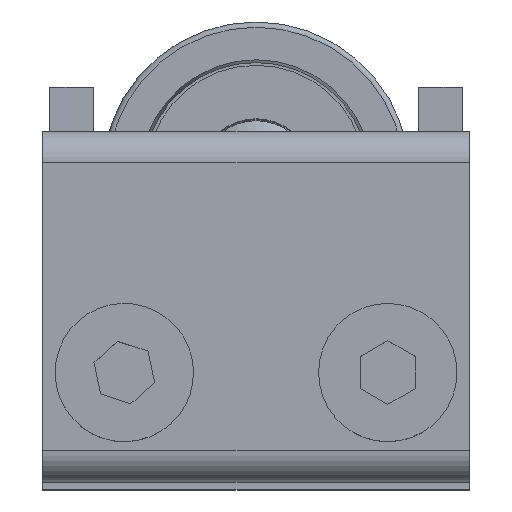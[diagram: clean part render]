
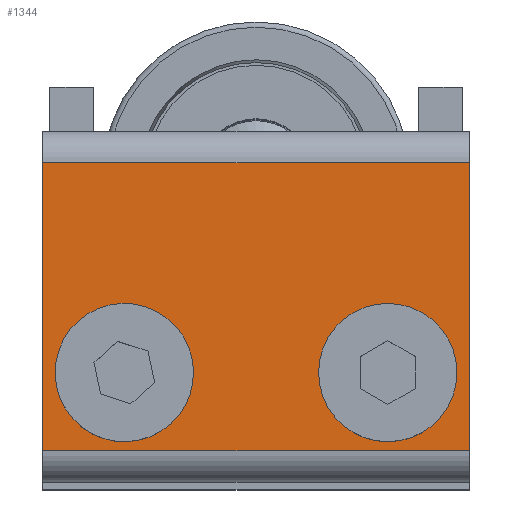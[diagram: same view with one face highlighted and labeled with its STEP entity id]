
A CAD part, top view. The second image highlights one B-rep face of the part: STEP entity #1344.
In plain terms, the highlighted planar face has unit normal (0, 0, 1) as drawn and (0, 0, -1) by its records, which use the part's own axes.
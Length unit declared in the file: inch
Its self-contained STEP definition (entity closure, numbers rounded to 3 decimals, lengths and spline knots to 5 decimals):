
#1043=DIRECTION('',(0.,-1.,0.));
#1044=VECTOR('',#1043,0.82);
#1045=CARTESIAN_POINT('',(-0.6075,0.41,-0.18));
#1046=LINE('',#1045,#1044);
#1069=DIRECTION('',(0.,-1.,0.));
#1070=VECTOR('',#1069,0.82);
#1071=CARTESIAN_POINT('',(0.6075,0.41,-0.18));
#1072=LINE('',#1071,#1070);
#1073=CARTESIAN_POINT('',(0.375,-0.188,-0.18));
#1074=DIRECTION('',(0.,0.,1.));
#1075=DIRECTION('',(1.,0.,0.));
#1076=AXIS2_PLACEMENT_3D('',#1073,#1074,#1075);
#1078=CARTESIAN_POINT('',(0.375,-0.188,-0.18));
#1079=DIRECTION('',(0.,0.,1.));
#1080=DIRECTION('',(-1.,0.,0.));
#1081=AXIS2_PLACEMENT_3D('',#1078,#1079,#1080);
#1083=CARTESIAN_POINT('',(-0.375,-0.188,-0.18));
#1084=DIRECTION('',(0.,0.,1.));
#1085=DIRECTION('',(1.,0.,0.));
#1086=AXIS2_PLACEMENT_3D('',#1083,#1084,#1085);
#1088=CARTESIAN_POINT('',(-0.375,-0.188,-0.18));
#1089=DIRECTION('',(0.,0.,1.));
#1090=DIRECTION('',(-1.,0.,0.));
#1091=AXIS2_PLACEMENT_3D('',#1088,#1089,#1090);
#1191=DIRECTION('',(-1.,0.,0.));
#1192=VECTOR('',#1191,1.215);
#1193=CARTESIAN_POINT('',(0.6075,0.41,-0.18));
#1194=LINE('',#1193,#1192);
#1211=DIRECTION('',(1.,0.,0.));
#1212=VECTOR('',#1211,1.215);
#1213=CARTESIAN_POINT('',(-0.6075,-0.41,-0.18));
#1214=LINE('',#1213,#1212);
#1219=CARTESIAN_POINT('',(0.6075,0.41,-0.18));
#1221=VERTEX_POINT('',#1219);
#1234=CARTESIAN_POINT('',(0.25,-0.188,-0.18));
#1236=VERTEX_POINT('',#1234);
#1239=CARTESIAN_POINT('',(-0.6075,0.41,-0.18));
#1240=CARTESIAN_POINT('',(-0.6075,-0.41,-0.18));
#1241=VERTEX_POINT('',#1239);
#1242=VERTEX_POINT('',#1240);
#1257=CARTESIAN_POINT('',(0.6075,-0.41,-0.18));
#1258=VERTEX_POINT('',#1257);
#1261=CARTESIAN_POINT('',(-0.5,-0.188,-0.18));
#1262=VERTEX_POINT('',#1261);
#1265=CARTESIAN_POINT('',(-0.25,-0.188,-0.18));
#1266=VERTEX_POINT('',#1265);
#1271=CARTESIAN_POINT('',(0.5,-0.188,-0.18));
#1272=VERTEX_POINT('',#1271);
#1318=CARTESIAN_POINT('',(0.6075,0.5,-0.18));
#1319=DIRECTION('',(0.,0.,1.));
#1320=DIRECTION('',(0.,-1.,0.));
#1321=AXIS2_PLACEMENT_3D('',#1318,#1319,#1320);
#1322=PLANE('',#1321);
#1324=ORIENTED_EDGE('',*,*,#1323,.F.);
#1326=ORIENTED_EDGE('',*,*,#1325,.T.);
#1327=ORIENTED_EDGE('',*,*,#1296,.T.);
#1329=ORIENTED_EDGE('',*,*,#1328,.T.);
#1330=EDGE_LOOP('',(#1324,#1326,#1327,#1329));
#1331=FACE_OUTER_BOUND('',#1330,.F.);
#1333=ORIENTED_EDGE('',*,*,#1332,.F.);
#1335=ORIENTED_EDGE('',*,*,#1334,.F.);
#1336=EDGE_LOOP('',(#1333,#1335));
#1337=FACE_BOUND('',#1336,.F.);
#1339=ORIENTED_EDGE('',*,*,#1338,.F.);
#1341=ORIENTED_EDGE('',*,*,#1340,.F.);
#1342=EDGE_LOOP('',(#1339,#1341));
#1343=FACE_BOUND('',#1342,.F.);
#1077=CIRCLE('',#1076,0.125);
#1082=CIRCLE('',#1081,0.125);
#1087=CIRCLE('',#1086,0.125);
#1092=CIRCLE('',#1091,0.125);
#1296=EDGE_CURVE('',#1241,#1242,#1046,.T.);
#1323=EDGE_CURVE('',#1221,#1258,#1072,.T.);
#1325=EDGE_CURVE('',#1221,#1241,#1194,.T.);
#1328=EDGE_CURVE('',#1242,#1258,#1214,.T.);
#1332=EDGE_CURVE('',#1272,#1236,#1077,.T.);
#1334=EDGE_CURVE('',#1236,#1272,#1082,.T.);
#1338=EDGE_CURVE('',#1266,#1262,#1087,.T.);
#1340=EDGE_CURVE('',#1262,#1266,#1092,.T.);
#1344=ADVANCED_FACE('',(#1331,#1337,#1343),#1322,.F.);
